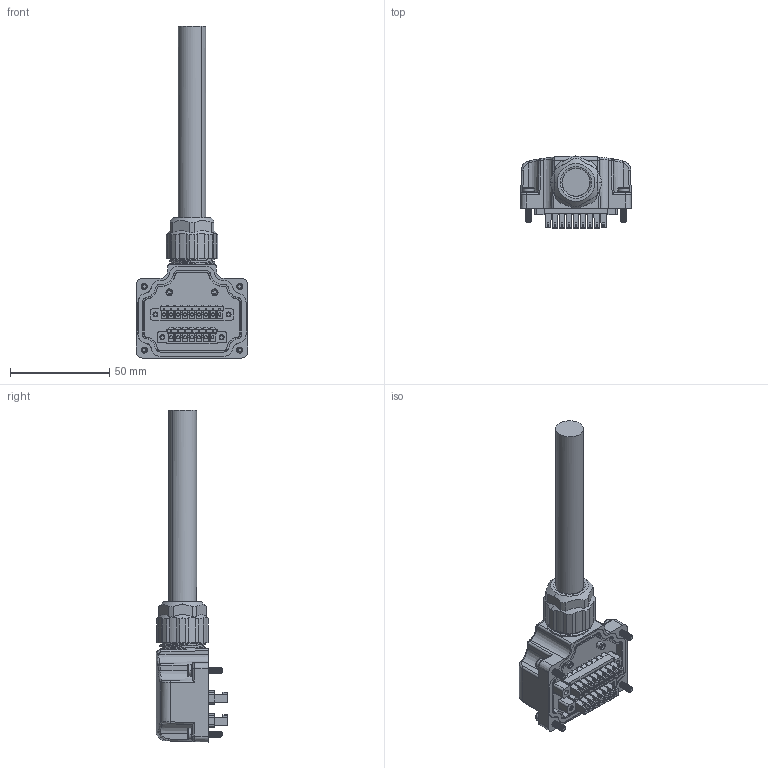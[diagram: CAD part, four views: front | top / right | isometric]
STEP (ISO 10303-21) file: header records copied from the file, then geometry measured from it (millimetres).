
FILE_DESCRIPTION((''),'2;1');
FILE_NAME('24T0G1_20-11-11_ASM','2022-06-01T',('PC'),(''),'PRO/ENGINEER BY PARAMETRIC TECHNOLOGY CORPORATION, 2009220','PRO/ENGINEER BY PARAMETRIC TECHNOLOGY CORPORATION, 2009220','');
FILE_SCHEMA(('CONFIG_CONTROL_DESIGN'));
Length unit declared in the file: millimetre
Products named in the file (11): FMC_1_5-7-STF-3_5-247990; FMC_1_5-7-STF-3_5-255060_ASM_ASM; LUOSI2; FMC_1_5-9-STF-3_5-308100; FMC_1_5-9-STF-3_5-316790_ASM_ASM; NONE; ________6_1_; ____27_M12-M23-PCB____________2_ASM; ASM0002_ASM; _24T0G1_20-11-11; 24T0G1_20-11-11_ASM
Assembly tree (13 placements, depth 4):
  24T0G1_20-11-11_ASM
    ASM0002_ASM
      FMC_1_5-7-STF-3_5-255060_ASM_ASM
        FMC_1_5-7-STF-3_5-247990
      LUOSI2  x4
      FMC_1_5-9-STF-3_5-316790_ASM_ASM
        FMC_1_5-9-STF-3_5-308100
      ____27_M12-M23-PCB____________2_ASM
        NONE
        ________6_1_
    _24T0G1_20-11-11
Bounding box: 56 x 36.2 x 167.17 mm (x, y, z)
Volume: 73015.1 mm3; surface area: 34872.6 mm2
Topology: 8 solids, 21 shells, 3440 faces, 9418 edges, 6150 vertices
Faces by surface type: plane 1652, cylinder 1154, cone 181, extrusion 164, torus 153, bspline 112, sphere 12, revolution 12
Entity records: 136405 total; most frequent: CARTESIAN_POINT 57519, ORIENTED_EDGE 17063, DIRECTION 15499, EDGE_CURVE 8541, VERTEX_POINT 5580, VECTOR 5279, LINE 5115, AXIS2_PLACEMENT_3D 5104
